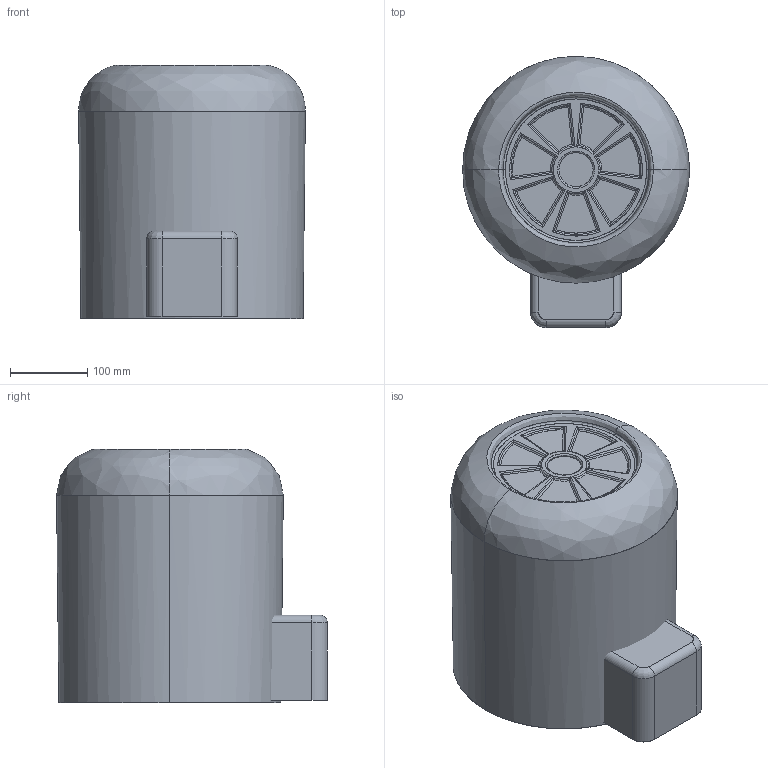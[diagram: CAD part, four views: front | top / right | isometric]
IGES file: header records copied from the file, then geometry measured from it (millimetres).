
Start section: SolidWorks IGES file using NURBS representation for surfaces
Global section: file name: C:\Users\Åâãåíèé\Desktop\Ñàìîë¸òû\ßê-55\Äëÿ ñòàíêà\êàïîò\êàïîò.IGS; native system: SolidWorks 2011; preprocessor: SolidWorks 2011; author: Åâãåíèé; date: 110506.002932; units: millimetre
Bounding box: 292.84 x 349.89 x 327.02 mm (x, y, z)
Surface area: 470446.3 mm2 (no closed solid volume)
Topology: 0 solids, 0 shells, 95 faces, 1652 edges, 1652 vertices
Faces by surface type: bspline 95
